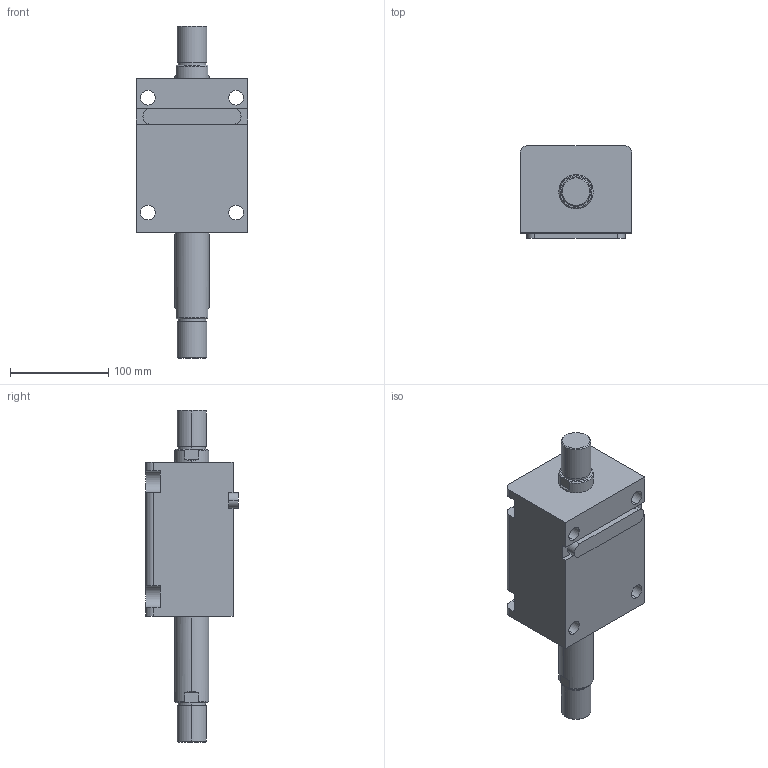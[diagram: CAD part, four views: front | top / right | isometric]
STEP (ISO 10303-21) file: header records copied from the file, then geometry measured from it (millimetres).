
FILE_DESCRIPTION (( 'STEP AP203' ), '1' );
FILE_NAME ('HTB-LW63-75W.STEP', '2019-10-09T08:28:36', ( '微软用户' ), ( '微软中国' ), 'SwSTEP 2.0', 'SolidWorks 2012', '' );
FILE_SCHEMA (( 'CONFIG_CONTROL_DESIGN' ));
Length unit declared in the file: millimetre
Products named in the file (4): HTB-LW63-75W; HTB-LA63-瑩; HTB-LW63-75W活塞杆; HTB-LW63-75掛极
Assembly tree (3 placements, depth 2):
  HTB-LW63-75W
    HTB-LW63-75掛极
    HTB-LW63-75W活塞杆
    HTB-LA63-瑩
Bounding box: 114 x 94.5 x 338 mm (x, y, z)
Volume: 1504582.7 mm3; surface area: 176734.9 mm2
Topology: 3 solids, 3 shells, 109 faces, 265 edges, 174 vertices
Faces by surface type: plane 48, cylinder 45, cone 12, torus 4
Entity records: 3679 total; most frequent: CARTESIAN_POINT 610, DIRECTION 593, ORIENTED_EDGE 530, EDGE_CURVE 265, AXIS2_PLACEMENT_3D 229, VERTEX_POINT 174, VECTOR 135, LINE 135
